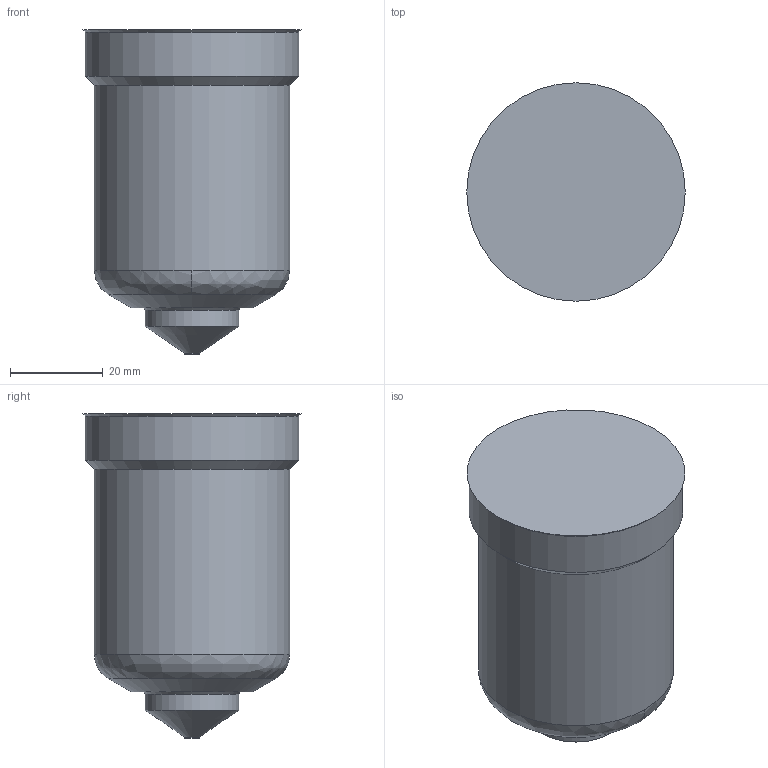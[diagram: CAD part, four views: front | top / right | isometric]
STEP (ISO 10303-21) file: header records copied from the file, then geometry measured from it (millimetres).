
FILE_DESCRIPTION(('STEP AP214'),'1');
FILE_NAME('SEDE FLM10-A.stp','2018-06-12T09:01:01',(' '),(' '),'Spatial InterOp 3D',' ',' ');
FILE_SCHEMA(('AUTOMOTIVE_DESIGN { 1 0 10303 214 1 1 1 1 }'));
Length unit declared in the file: millimetre
Products named in the file (1): 1
Bounding box: 47.12 x 47.12 x 70 mm (x, y, z)
Volume: 86309.2 mm3; surface area: 11092.2 mm2
Topology: 1 solids, 1 shells, 14 faces, 27 edges, 16 vertices
Faces by surface type: cone 5, cylinder 4, plane 3, bspline 2
Full cylindrical faces by diameter (mm): 3.125 x1, 20.125 x1, 42.125 x1, 46.125 x1
Entity records: 447 total; most frequent: CARTESIAN_POINT 75, DIRECTION 58, ORIENTED_EDGE 32, AXIS2_PLACEMENT_3D 29, EDGE_LOOP 24, FACE_OUTER_BOUND 18, EDGE_CURVE 16, CIRCLE 16
